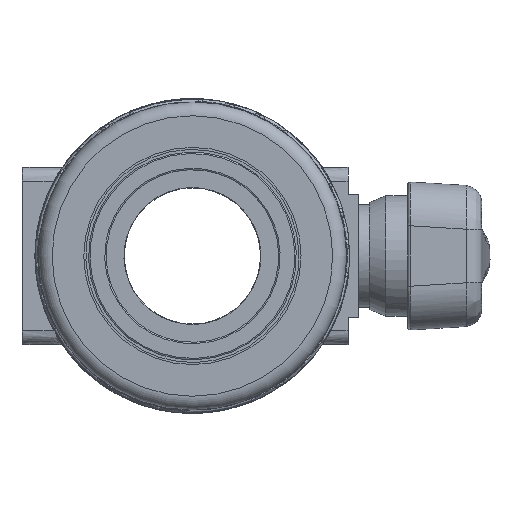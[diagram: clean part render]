
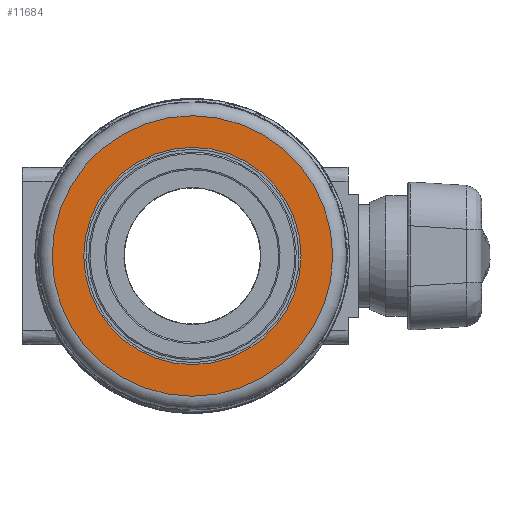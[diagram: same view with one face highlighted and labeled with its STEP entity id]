
A CAD part, front view. The second image highlights one B-rep face of the part: STEP entity #11684.
In plain terms, the highlighted planar face has unit normal (0, -1, 0).
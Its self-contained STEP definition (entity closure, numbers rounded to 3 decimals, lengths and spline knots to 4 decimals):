
#381=FACE_BOUND('',#2814,.T.);
#1412=CIRCLE('',#12659,5.12);
#1413=CIRCLE('',#12660,3.965);
#2074=FACE_OUTER_BOUND('',#2813,.T.);
#2813=EDGE_LOOP('',(#9120));
#2814=EDGE_LOOP('',(#9121));
#5019=VERTEX_POINT('',#44251);
#5020=VERTEX_POINT('',#44253);
#6475=EDGE_CURVE('',#5019,#5019,#1412,.T.);
#6476=EDGE_CURVE('',#5020,#5020,#1413,.T.);
#9120=ORIENTED_EDGE('',*,*,#6475,.F.);
#9121=ORIENTED_EDGE('',*,*,#6476,.T.);
#10462=PLANE('',#12658);
#11684=ADVANCED_FACE('',(#2074,#381),#10462,.T.);
#12658=AXIS2_PLACEMENT_3D('',#44250,#14912,#14913);
#12659=AXIS2_PLACEMENT_3D('',#44252,#14914,#14915);
#12660=AXIS2_PLACEMENT_3D('',#44254,#14916,#14917);
#14912=DIRECTION('center_axis',(0.,-1.,0.));
#14913=DIRECTION('ref_axis',(0.341,0.,0.94));
#14914=DIRECTION('center_axis',(0.,1.,0.));
#14915=DIRECTION('ref_axis',(-0.94,0.,0.341));
#14916=DIRECTION('center_axis',(0.,1.,0.));
#14917=DIRECTION('ref_axis',(-0.94,0.,0.341));
#44250=CARTESIAN_POINT('Origin',(4.8139,-5.94,-1.7437));
#44251=CARTESIAN_POINT('',(4.8139,-5.94,-1.7437));
#44252=CARTESIAN_POINT('Origin',(0.,-5.94,0.));
#44253=CARTESIAN_POINT('',(3.728,-5.94,-1.3503));
#44254=CARTESIAN_POINT('Origin',(0.,-5.94,0.));
